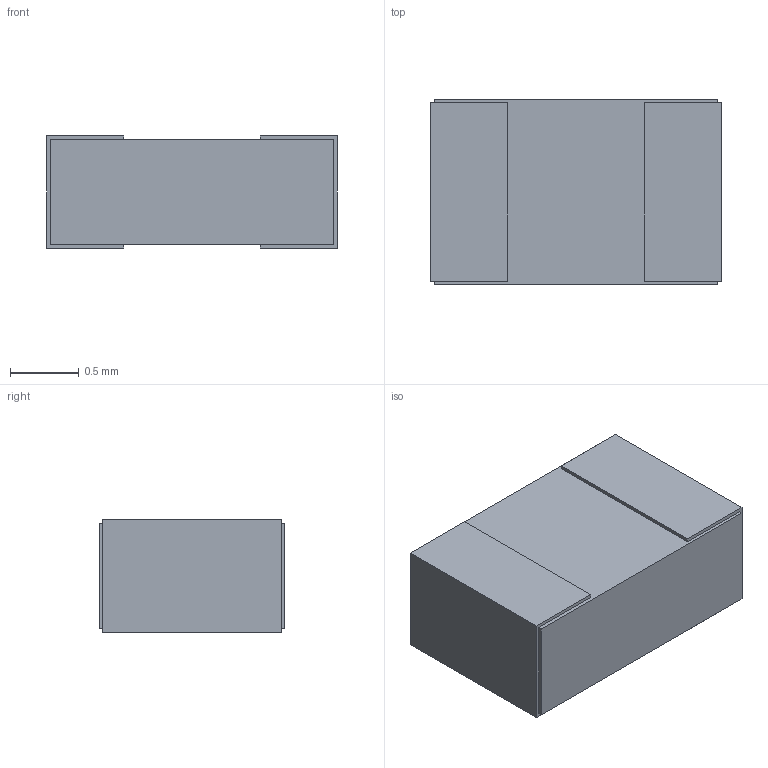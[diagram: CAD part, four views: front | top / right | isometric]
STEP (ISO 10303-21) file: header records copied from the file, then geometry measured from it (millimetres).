
FILE_DESCRIPTION(('STEP AP214'),'1');
FILE_NAME('150080RS75000_WRE','2022-07-13T23:06:14',(''),(''),'','','');
FILE_SCHEMA(('AUTOMOTIVE_DESIGN'));
Length unit declared in the file: millimetre
Products named in the file (1): product
Bounding box: 2.11 x 1.35 x 0.81 mm (x, y, z)
Volume: 2.2 mm3; surface area: 20.8 mm2
Topology: 3 solids, 3 shells, 26 faces, 60 edges, 40 vertices
Faces by surface type: plane 26
Entity records: 737 total; most frequent: ORIENTED_EDGE 120, DIRECTION 114, CARTESIAN_POINT 67, EDGE_CURVE 60, LINE 60, VECTOR 60, VERTEX_POINT 40, AXIS2_PLACEMENT_3D 27
